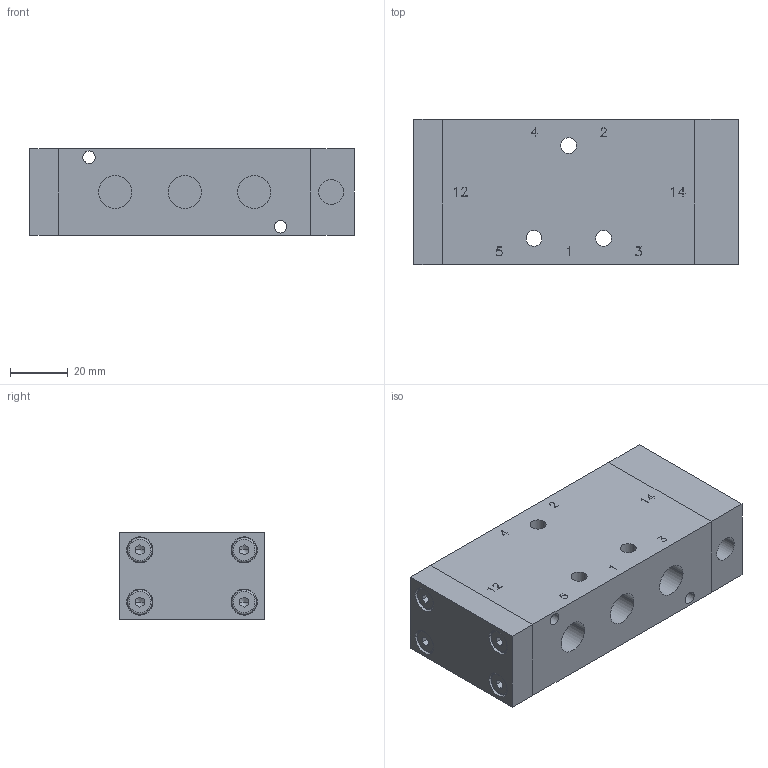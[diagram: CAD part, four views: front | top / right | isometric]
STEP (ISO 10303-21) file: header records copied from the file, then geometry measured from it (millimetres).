
FILE_DESCRIPTION (( 'STEP AP214' ), '1' );
FILE_NAME ('PKX-10-511_Airtec.step', '2019-01-07T16:09:11', ( '' ), ( '' ), 'SwSTEP 2.0', 'SolidWorks 2010', '' );
FILE_SCHEMA (( 'AUTOMOTIVE_DESIGN' ));
Length unit declared in the file: millimetre
Products named in the file (1): PKX-10-511_Airtec
Bounding box: 112 x 50 x 30 mm (x, y, z)
Volume: 156590.3 mm3; surface area: 28109.3 mm2
Topology: 1 solids, 1 shells, 538 faces, 1468 edges, 968 vertices
Faces by surface type: plane 452, cylinder 54, torus 16, cone 16
Entity records: 17872 total; most frequent: CARTESIAN_POINT 3087, ORIENTED_EDGE 2904, DIRECTION 2622, EDGE_CURVE 1452, LINE 1232, VECTOR 1232, VERTEX_POINT 968, AXIS2_PLACEMENT_3D 695
